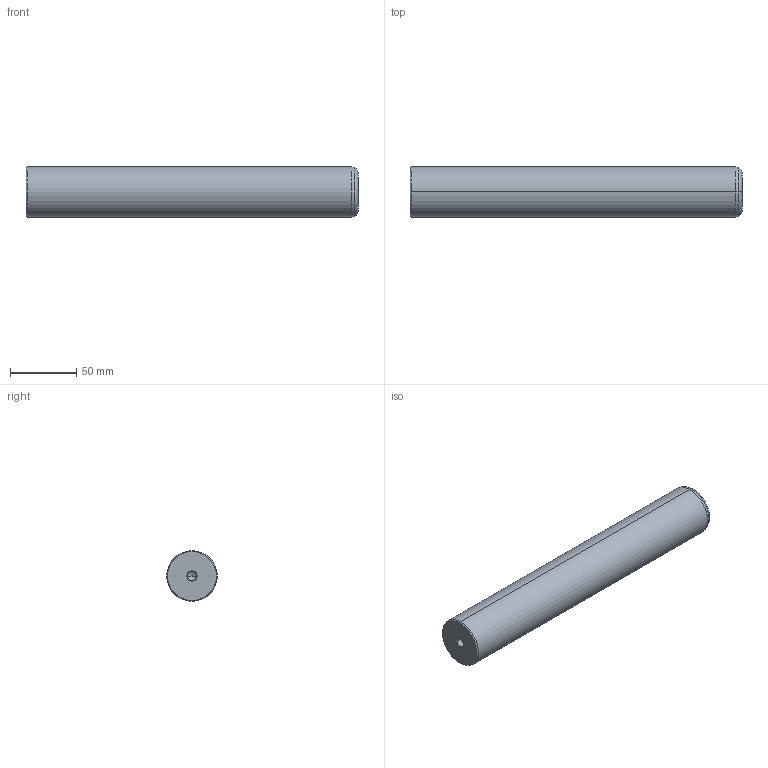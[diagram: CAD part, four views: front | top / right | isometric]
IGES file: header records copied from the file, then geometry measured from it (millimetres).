
Start section: START RECORD GO HERE.
Global section: file name: 720-38x250.igs; native system: DASSAULT SYSTEMES CATIA V5 R20 - www.3ds.com; preprocessor: CATIA Version 5 Release 20 ; author: Utente; organization: NB04-ASUS; date: 20210101.130457; units: millimetre
Bounding box: 250 x 38 x 38 mm (x, y, z)
Surface area: 32799.9 mm2 (no closed solid volume)
Topology: 0 solids, 0 shells, 22 faces, 108 edges, 104 vertices
Faces by surface type: revolution 20, plane 2
